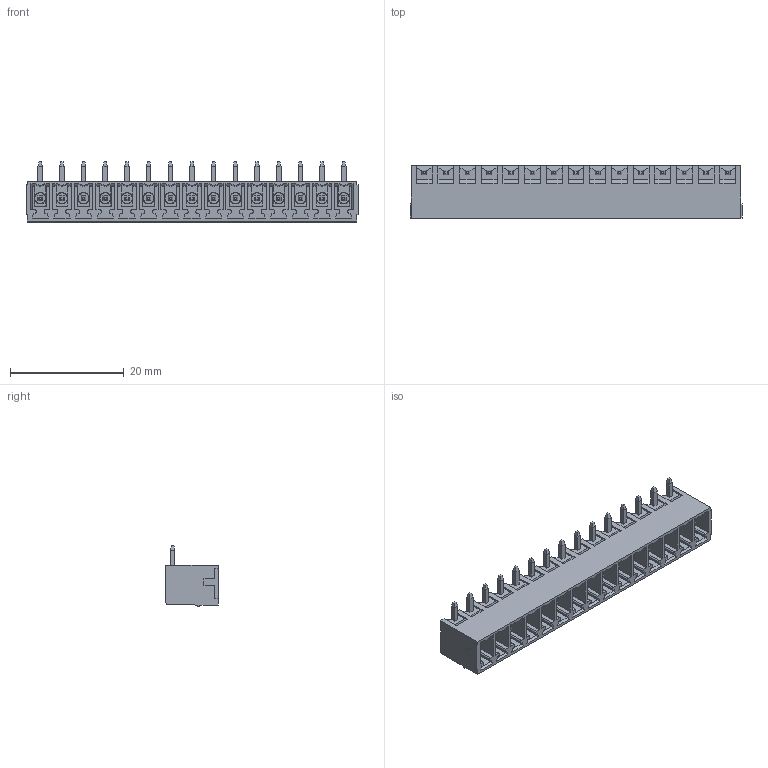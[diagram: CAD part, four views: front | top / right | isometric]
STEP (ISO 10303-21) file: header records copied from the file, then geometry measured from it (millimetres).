
FILE_DESCRIPTION(('FreeCAD Model'),'2;1');
FILE_NAME('Open CASCADE Shape Model','2023-05-24T16:25:52',('Author'),( ''),'Open CASCADE STEP processor 7.6','FreeCAD','Unknown');
FILE_SCHEMA(('AUTOMOTIVE_DESIGN { 1 0 10303 214 1 1 1 1 }'));
Products named in the file (1): BR7MN2-15
Bounding box: 58.34 x 9.2 x 10.6 mm (x, y, z)
Volume: 1763.7 mm3; surface area: 5322.5 mm2
Topology: 1 solids, 16 shells, 1287 faces, 3300 edges, 2075 vertices
Faces by surface type: plane 1121, cylinder 91, cone 45, sphere 30
Entity records: 81699 total; most frequent: CARTESIAN_POINT 15006, DIRECTION 12499, LINE 9086, VECTOR 9086, ORIENTED_EDGE 6540, PCURVE 6540, DEFINITIONAL_REPRESENTATION 6540, EDGE_CURVE 3270
